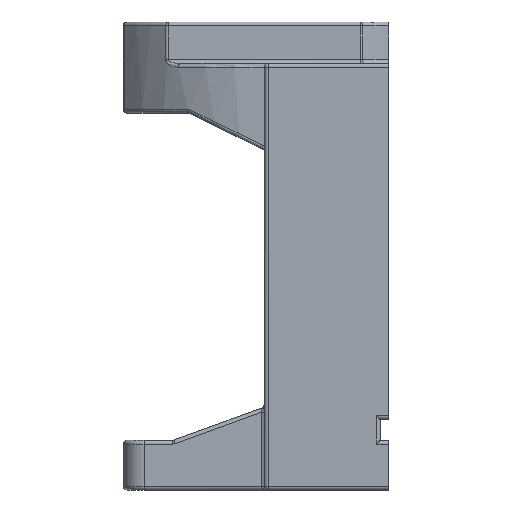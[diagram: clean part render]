
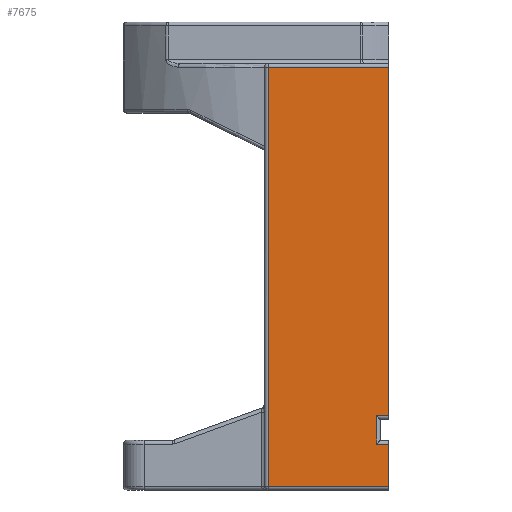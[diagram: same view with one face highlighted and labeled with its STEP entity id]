
A CAD part, left-side view. The second image highlights one B-rep face of the part: STEP entity #7675.
In plain terms, the highlighted planar face has unit normal (-1, 0, 0).
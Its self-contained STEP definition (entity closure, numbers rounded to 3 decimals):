
#3 = CARTESIAN_POINT ( 'NONE',  ( -44., -28., 5.1 ) ) ;
#130 = ORIENTED_EDGE ( 'NONE', *, *, #2117, .T. ) ;
#164 = DIRECTION ( 'NONE',  ( 0., -1., 0. ) ) ;
#197 = LINE ( 'NONE', #2393, #3841 ) ;
#328 = EDGE_CURVE ( 'NONE', #3849, #2591, #6625, .T. ) ;
#379 = CARTESIAN_POINT ( 'NONE',  ( -44., -34., -5.1 ) ) ;
#551 = CARTESIAN_POINT ( 'NONE',  ( -44., -30., 96.1 ) ) ;
#700 = LINE ( 'NONE', #8446, #8685 ) ;
#765 = CARTESIAN_POINT ( 'NONE',  ( -44., -34., 97. ) ) ;
#950 = ORIENTED_EDGE ( 'NONE', *, *, #9085, .T. ) ;
#1001 = DIRECTION ( 'NONE',  ( 0., -1., 0. ) ) ;
#1004 = EDGE_CURVE ( 'NONE', #2591, #3956, #700, .T. ) ;
#1034 = DIRECTION ( 'NONE',  ( 1., 0., 0. ) ) ;
#1049 = CARTESIAN_POINT ( 'NONE',  ( -44., -0.9, -5.1 ) ) ;
#1175 = VECTOR ( 'NONE', #3450, 1000. ) ;
#1379 = LINE ( 'NONE', #8982, #3079 ) ;
#1400 = ORIENTED_EDGE ( 'NONE', *, *, #328, .T. ) ;
#1455 = CARTESIAN_POINT ( 'NONE',  ( -44., -30., -5.1 ) ) ;
#1503 = PLANE ( 'NONE',  #5787 ) ;
#1640 = LINE ( 'NONE', #3551, #8930 ) ;
#2117 = EDGE_CURVE ( 'NONE', #3956, #7348, #197, .T. ) ;
#2203 = DIRECTION ( 'NONE',  ( 0., 0., 1. ) ) ;
#2244 = CARTESIAN_POINT ( 'NONE',  ( -44., -30., 11.9 ) ) ;
#2281 = EDGE_LOOP ( 'NONE', ( #3656, #2428, #950, #1400, #7979, #130, #8196, #2778 ) ) ;
#2393 = CARTESIAN_POINT ( 'NONE',  ( -44., -30., 151.104 ) ) ;
#2428 = ORIENTED_EDGE ( 'NONE', *, *, #7905, .T. ) ;
#2454 = DIRECTION ( 'NONE',  ( 0., 1., 0. ) ) ;
#2591 = VERTEX_POINT ( 'NONE', #4909 ) ;
#2663 = VECTOR ( 'NONE', #2454, 1000. ) ;
#2778 = ORIENTED_EDGE ( 'NONE', *, *, #5758, .T. ) ;
#2910 = DIRECTION ( 'NONE',  ( 0., 0., 1. ) ) ;
#2980 = VERTEX_POINT ( 'NONE', #1049 ) ;
#3079 = VECTOR ( 'NONE', #8954, 1000. ) ;
#3184 = LINE ( 'NONE', #379, #8795 ) ;
#3450 = DIRECTION ( 'NONE',  ( 0., 0., -1. ) ) ;
#3551 = CARTESIAN_POINT ( 'NONE',  ( -44., 0., 96.1 ) ) ;
#3587 = CARTESIAN_POINT ( 'NONE',  ( -44., -0.9, 97. ) ) ;
#3656 = ORIENTED_EDGE ( 'NONE', *, *, #7512, .T. ) ;
#3841 = VECTOR ( 'NONE', #2203, 1000. ) ;
#3849 = VERTEX_POINT ( 'NONE', #9367 ) ;
#3956 = VERTEX_POINT ( 'NONE', #2244 ) ;
#4338 = VERTEX_POINT ( 'NONE', #8450 ) ;
#4481 = FACE_OUTER_BOUND ( 'NONE', #2281, .T. ) ;
#4577 = EDGE_CURVE ( 'NONE', #7348, #5573, #1640, .T. ) ;
#4613 = VECTOR ( 'NONE', #2910, 1000. ) ;
#4867 = DIRECTION ( 'NONE',  ( 0., 1., 0. ) ) ;
#4909 = CARTESIAN_POINT ( 'NONE',  ( -44., -27.1, 11.9 ) ) ;
#5573 = VERTEX_POINT ( 'NONE', #8684 ) ;
#5758 = EDGE_CURVE ( 'NONE', #5573, #2980, #7088, .T. ) ;
#5787 = AXIS2_PLACEMENT_3D ( 'NONE', #765, #1034, #1001 ) ;
#6625 = LINE ( 'NONE', #7298, #4613 ) ;
#6845 = VERTEX_POINT ( 'NONE', #1455 ) ;
#7088 = LINE ( 'NONE', #3587, #1175 ) ;
#7298 = CARTESIAN_POINT ( 'NONE',  ( -44., -27.1, 97. ) ) ;
#7348 = VERTEX_POINT ( 'NONE', #551 ) ;
#7512 = EDGE_CURVE ( 'NONE', #2980, #6845, #3184, .T. ) ;
#7675 = ADVANCED_FACE ( 'NONE', ( #4481 ), #1503, .F. ) ;
#7905 = EDGE_CURVE ( 'NONE', #6845, #4338, #1379, .T. ) ;
#7916 = DIRECTION ( 'NONE',  ( 0., -1., 0. ) ) ;
#7979 = ORIENTED_EDGE ( 'NONE', *, *, #1004, .T. ) ;
#8196 = ORIENTED_EDGE ( 'NONE', *, *, #4577, .T. ) ;
#8446 = CARTESIAN_POINT ( 'NONE',  ( -44., -34., 11.9 ) ) ;
#8450 = CARTESIAN_POINT ( 'NONE',  ( -44., -30., 5.1 ) ) ;
#8508 = LINE ( 'NONE', #3, #2663 ) ;
#8684 = CARTESIAN_POINT ( 'NONE',  ( -44., -0.9, 96.1 ) ) ;
#8685 = VECTOR ( 'NONE', #7916, 1000. ) ;
#8795 = VECTOR ( 'NONE', #164, 1000. ) ;
#8930 = VECTOR ( 'NONE', #4867, 1000. ) ;
#8954 = DIRECTION ( 'NONE',  ( 0., 0., 1. ) ) ;
#8982 = CARTESIAN_POINT ( 'NONE',  ( -44., -30., 151.104 ) ) ;
#9085 = EDGE_CURVE ( 'NONE', #4338, #3849, #8508, .T. ) ;
#9367 = CARTESIAN_POINT ( 'NONE',  ( -44., -27.1, 5.1 ) ) ;
